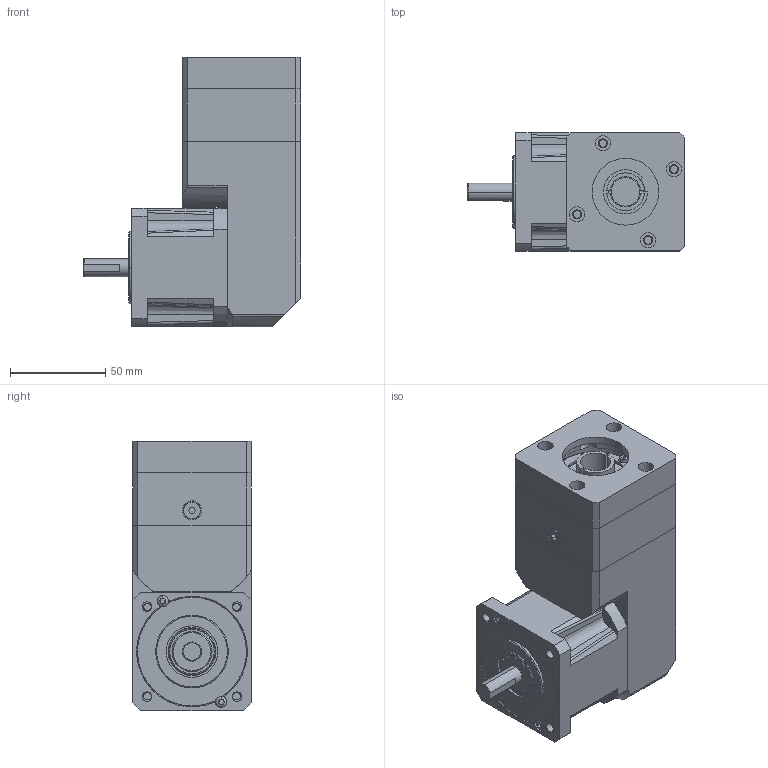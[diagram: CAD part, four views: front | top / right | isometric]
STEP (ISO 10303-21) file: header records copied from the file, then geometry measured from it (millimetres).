
FILE_DESCRIPTION((''),'2;1');
FILE_NAME('GEN_II_RX23_SHORT_ADAPT','2008-11-20T',('aza7363'),(''),'PRO/ENGINEER BY PARAMETRIC TECHNOLOGY CORPORATION, 2006300','PRO/ENGINEER BY PARAMETRIC TECHNOLOGY CORPORATION, 2006300','');
FILE_SCHEMA(('CONFIG_CONTROL_DESIGN'));
Length unit declared in the file: millimetre
Products named in the file (1): GEN_II_RX23_SHORT_ADAPT
Bounding box: 113.9 x 62 x 141.2 mm (x, y, z)
Surface area: 66478.8 mm2 (no closed solid volume)
Topology: 0 solids, 31 shells, 375 faces, 1090 edges, 745 vertices
Faces by surface type: plane 178, cylinder 126, bspline 25, cone 24, torus 22
Entity records: 13890 total; most frequent: CARTESIAN_POINT 4006, DIRECTION 2090, ORIENTED_EDGE 1873, EDGE_CURVE 1090, AXIS2_PLACEMENT_3D 784, VERTEX_POINT 745, VECTOR 522, LINE 522
